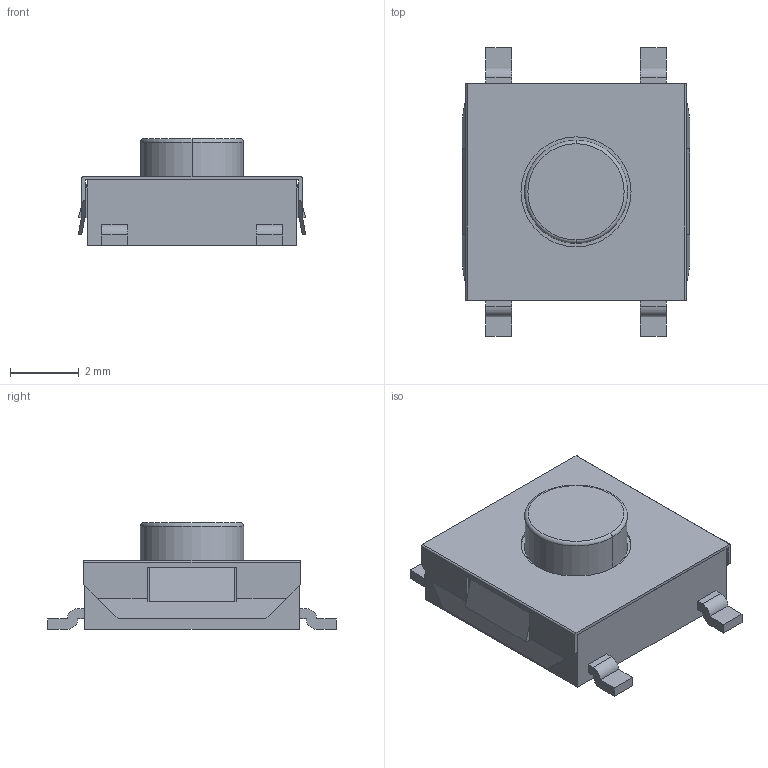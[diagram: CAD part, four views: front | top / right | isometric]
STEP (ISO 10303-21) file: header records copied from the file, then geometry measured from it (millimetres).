
FILE_DESCRIPTION((''),'2;1');
FILE_NAME('CU97M02641FP','2014-09-10T',('eric.riffaud'),(''),'PRO/ENGINEER BY PARAMETRIC TECHNOLOGY CORPORATION, 2013320','PRO/ENGINEER BY PARAMETRIC TECHNOLOGY CORPORATION, 2013320','');
FILE_SCHEMA(('CONFIG_CONTROL_DESIGN'));
Length unit declared in the file: millimetre
Products named in the file (1): CU97M02641FP
Bounding box: 6.61 x 8.4 x 3.1 mm (x, y, z)
Volume: 87.2 mm3; surface area: 181.1 mm2
Topology: 1 solids, 1 shells, 89 faces, 248 edges, 162 vertices
Faces by surface type: plane 73, cylinder 14, torus 2
Entity records: 2868 total; most frequent: CARTESIAN_POINT 499, ORIENTED_EDGE 496, DIRECTION 458, EDGE_CURVE 248, VECTOR 216, LINE 216, VERTEX_POINT 162, AXIS2_PLACEMENT_3D 121
